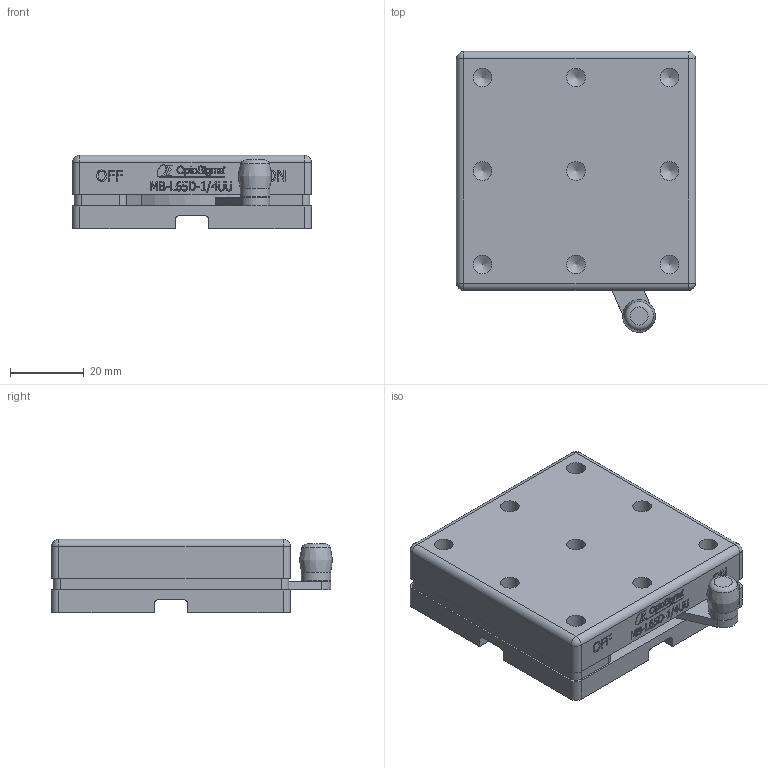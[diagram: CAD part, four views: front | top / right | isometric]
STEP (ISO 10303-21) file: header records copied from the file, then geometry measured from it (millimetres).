
FILE_DESCRIPTION(/* description */ (''),/* implementation_level */ '2;1');
FILE_NAME(/* name */ 'MB-L65D-1_4UU.stp',/* time_stamp */ '2024-05-28T09:48:10+09:00',/* author */ ('ma.tanaka'),/* organization */ (''),/* preprocessor_version */ 'ST-DEVELOPER v19.2',/* originating_system */ 'Autodesk Inventor 2023',/* authorisation */ '');
FILE_SCHEMA (('CONFIG_CONTROL_DESIGN'));
Length unit declared in the file: millimetre
Products named in the file (1): MB-L65D-1/4UU
Bounding box: 65 x 76.43 x 20 mm (x, y, z)
Volume: 75142.1 mm3; surface area: 16904.9 mm2
Topology: 1 solids, 1 shells, 473 faces, 1284 edges, 864 vertices
Faces by surface type: plane 277, bspline 123, cylinder 54, cone 10, torus 5, sphere 4
Full cylindrical faces by diameter (mm): 5.1 x9, 8 x1
Entity records: 16411 total; most frequent: CARTESIAN_POINT 5211, ORIENTED_EDGE 2550, DIRECTION 1824, EDGE_CURVE 1275, LINE 884, VECTOR 884, VERTEX_POINT 864, EDGE_LOOP 533
